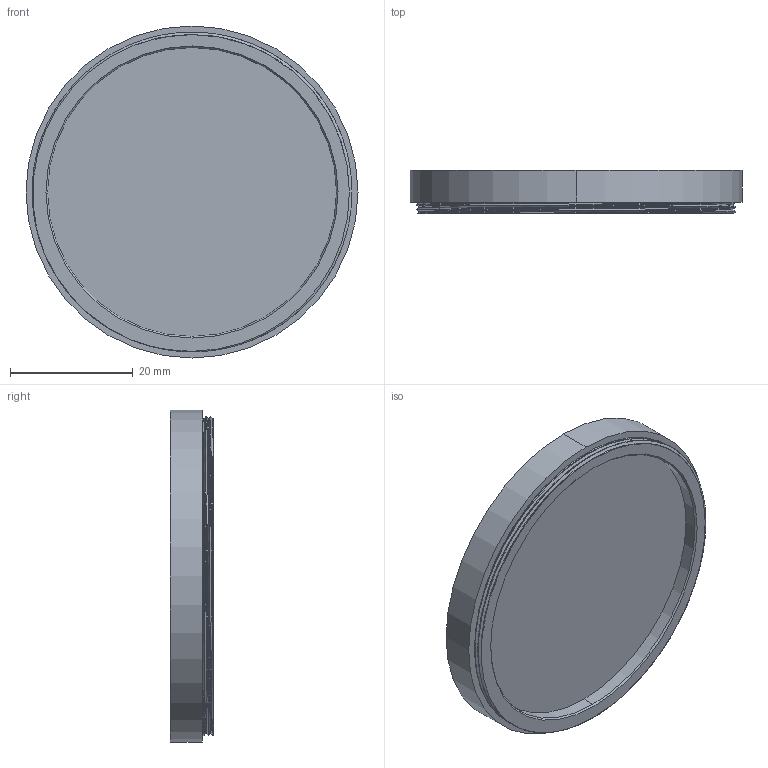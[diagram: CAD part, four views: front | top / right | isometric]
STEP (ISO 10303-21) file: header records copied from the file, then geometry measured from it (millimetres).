
FILE_DESCRIPTION (( 'STEP AP214' ), '1' );
FILE_NAME ('M52 x P0.75.STEP', '2023-01-19T08:18:09', ( '' ), ( '' ), 'SwSTEP 2.0', 'SolidWorks 2021', '' );
FILE_SCHEMA (( 'AUTOMOTIVE_DESIGN' ));
Length unit declared in the file: millimetre
Products named in the file (1): M52 x P0.75
Bounding box: 54 x 7 x 54 mm (x, y, z)
Volume: 3063.7 mm3; surface area: 8389.7 mm2
Topology: 3 solids, 3 shells, 47 faces, 112 edges, 74 vertices
Faces by surface type: cylinder 25, plane 11, bspline 9, cone 2
Entity records: 3231 total; most frequent: CARTESIAN_POINT 2213, ORIENTED_EDGE 224, DIRECTION 173, EDGE_CURVE 112, VERTEX_POINT 74, AXIS2_PLACEMENT_3D 73, EDGE_LOOP 54, ADVANCED_FACE 47
